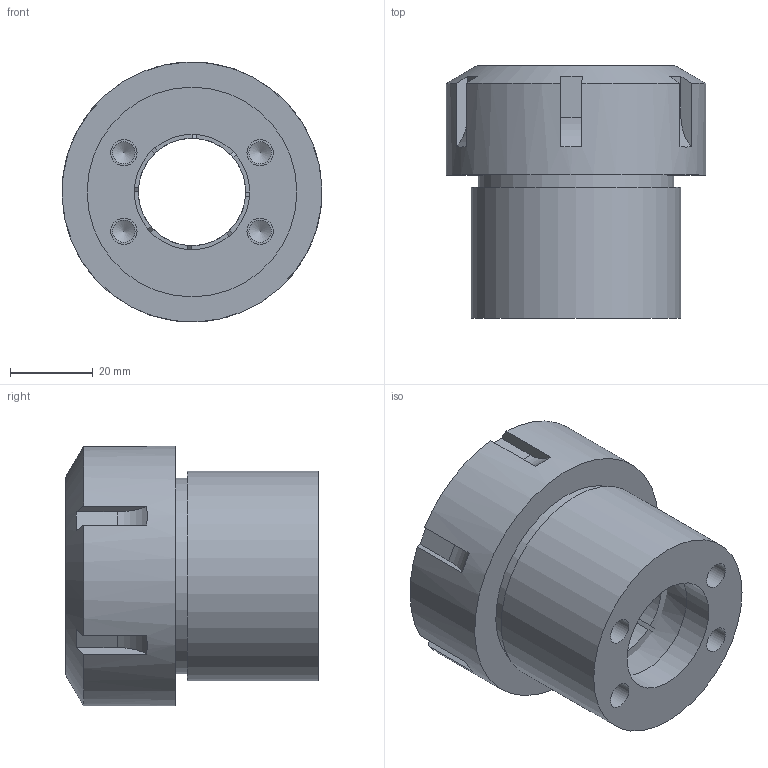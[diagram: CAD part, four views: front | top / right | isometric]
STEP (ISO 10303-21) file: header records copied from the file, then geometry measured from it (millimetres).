
FILE_DESCRIPTION (( 'STEP AP214' ), '1' );
FILE_NAME ('CERX-40_WEBSITE.step', '2025-08-11T13:26:54', ( '' ), ( '' ), 'SwSTEP 2.0', 'SolidWorks 2025', '' );
FILE_SCHEMA (( 'AUTOMOTIVE_DESIGN' ));
Length unit declared in the file: inch
Products named in the file (4): CERX-40_WEBSITE; CERX40-3_WEBSITE; CERX40-1_WEBSITE_CER40; CERX40-2_WEBSITE
Assembly tree (3 placements, depth 2):
  CERX-40_WEBSITE
    CERX40-1_WEBSITE_CER40
    CERX40-2_WEBSITE
    CERX40-3_WEBSITE
Bounding box: 62.95 x 61.2 x 62.97 mm (x, y, z)
Volume: 110124.8 mm3; surface area: 46868.7 mm2
Topology: 3 solids, 3 shells, 210 faces, 588 edges, 391 vertices
Faces by surface type: plane 113, cylinder 74, cone 23
Full cylindrical faces by diameter (mm): 5.41 x4, 6.35 x4, 26 x1, 27.94 x1, 33.1 x1, 40 x1, 40.85 x1, 41.86 x1, 47.46 x1, 48.5 x1, 50 x1, 50.8 x1, 52 x1, 63 x1
Entity records: 6922 total; most frequent: CARTESIAN_POINT 1565, ORIENTED_EDGE 1096, DIRECTION 1060, EDGE_CURVE 548, AXIS2_PLACEMENT_3D 419, VERTEX_POINT 378, EDGE_LOOP 250, FACE_OUTER_BOUND 230
